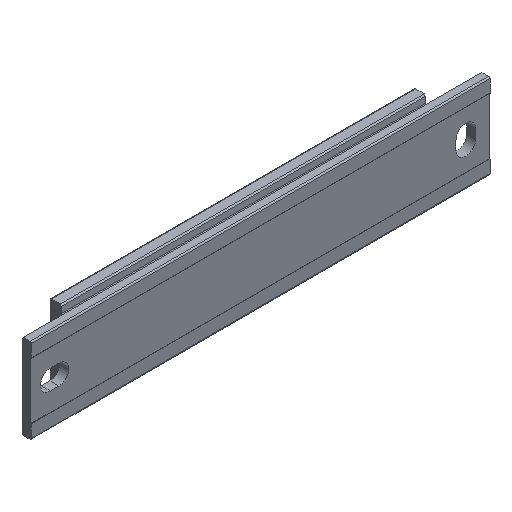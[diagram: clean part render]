
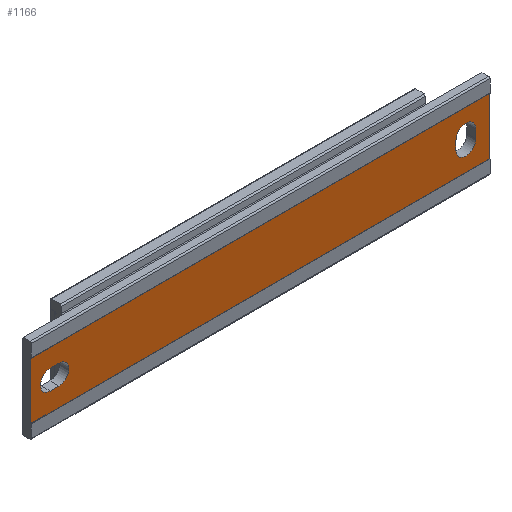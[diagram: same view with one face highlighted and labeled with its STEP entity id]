
A CAD part, isometric view. The second image highlights one B-rep face of the part: STEP entity #1166.
In plain terms, the highlighted planar face has unit normal (0, -1, 0).
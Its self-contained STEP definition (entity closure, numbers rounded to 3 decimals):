
#25 = CIRCLE ( 'NONE', #1387, 2.1 ) ;
#63 = DIRECTION ( 'NONE',  ( 0., 0., 1. ) ) ;
#131 = ORIENTED_EDGE ( 'NONE', *, *, #443, .T. ) ;
#133 = VERTEX_POINT ( 'NONE', #603 ) ;
#143 = ORIENTED_EDGE ( 'NONE', *, *, #2090, .T. ) ;
#166 = CARTESIAN_POINT ( 'NONE',  ( 89.9, 0.1, -3. ) ) ;
#266 = VECTOR ( 'NONE', #2353, 1000. ) ;
#305 = DIRECTION ( 'NONE',  ( 1., 0., 0. ) ) ;
#317 = ORIENTED_EDGE ( 'NONE', *, *, #707, .T. ) ;
#336 = CARTESIAN_POINT ( 'NONE',  ( 92., 0.1, -8.1 ) ) ;
#343 = DIRECTION ( 'NONE',  ( 0., 0., -1. ) ) ;
#358 = DIRECTION ( 'NONE',  ( 0., 1., 0. ) ) ;
#383 = VECTOR ( 'NONE', #2014, 1000. ) ;
#405 = EDGE_CURVE ( 'NONE', #877, #1257, #1589, .T. ) ;
#441 = VERTEX_POINT ( 'NONE', #650 ) ;
#443 = EDGE_CURVE ( 'NONE', #1113, #133, #1202, .T. ) ;
#468 = AXIS2_PLACEMENT_3D ( 'NONE', #1247, #1434, #1279 ) ;
#511 = VECTOR ( 'NONE', #2053, 1000. ) ;
#561 = DIRECTION ( 'NONE',  ( 0., 1., 0. ) ) ;
#593 = CARTESIAN_POINT ( 'NONE',  ( 92., 0.1, -9.9 ) ) ;
#598 = DIRECTION ( 'NONE',  ( 0., 1., 0. ) ) ;
#603 = CARTESIAN_POINT ( 'NONE',  ( 94.1, 0.1, -8.1 ) ) ;
#639 = EDGE_CURVE ( 'NONE', #1823, #1113, #1659, .T. ) ;
#640 = ORIENTED_EDGE ( 'NONE', *, *, #1727, .T. ) ;
#650 = CARTESIAN_POINT ( 'NONE',  ( 0., 0.1, -15. ) ) ;
#656 = PLANE ( 'NONE',  #2100 ) ;
#707 = EDGE_CURVE ( 'NONE', #716, #2363, #1905, .T. ) ;
#716 = VERTEX_POINT ( 'NONE', #1364 ) ;
#733 = DIRECTION ( 'NONE',  ( 0., 0., 1. ) ) ;
#742 = EDGE_LOOP ( 'NONE', ( #2215, #317, #1636, #640 ) ) ;
#757 = AXIS2_PLACEMENT_3D ( 'NONE', #336, #561, #1116 ) ;
#763 = VECTOR ( 'NONE', #343, 1000. ) ;
#841 = CARTESIAN_POINT ( 'NONE',  ( 94.1, 0.1, -9.9 ) ) ;
#877 = VERTEX_POINT ( 'NONE', #2282 ) ;
#890 = CARTESIAN_POINT ( 'NONE',  ( 94.1, 0.1, -3. ) ) ;
#903 = VECTOR ( 'NONE', #733, 1000. ) ;
#912 = EDGE_CURVE ( 'NONE', #1257, #441, #1304, .T. ) ;
#923 = CARTESIAN_POINT ( 'NONE',  ( 5.9, 0.1, -9. ) ) ;
#927 = CARTESIAN_POINT ( 'NONE',  ( 97., 0.1, -3. ) ) ;
#1019 = LINE ( 'NONE', #890, #1464 ) ;
#1071 = AXIS2_PLACEMENT_3D ( 'NONE', #593, #358, #2274 ) ;
#1098 = DIRECTION ( 'NONE',  ( 0., 0., -1. ) ) ;
#1113 = VERTEX_POINT ( 'NONE', #1482 ) ;
#1116 = DIRECTION ( 'NONE',  ( 0., 0., 1. ) ) ;
#1135 = ORIENTED_EDGE ( 'NONE', *, *, #912, .T. ) ;
#1142 = FACE_BOUND ( 'NONE', #1837, .T. ) ;
#1166 = ADVANCED_FACE ( 'NONE', ( #1142, #1349, #1882 ), #656, .F. ) ;
#1202 = CIRCLE ( 'NONE', #468, 2.1 ) ;
#1208 = ORIENTED_EDGE ( 'NONE', *, *, #405, .T. ) ;
#1216 = DIRECTION ( 'NONE',  ( 0., 1., 0. ) ) ;
#1247 = CARTESIAN_POINT ( 'NONE',  ( 92., 0.1, -8.1 ) ) ;
#1254 = CARTESIAN_POINT ( 'NONE',  ( 97., 0.1, -6.9 ) ) ;
#1257 = VERTEX_POINT ( 'NONE', #1864 ) ;
#1274 = EDGE_CURVE ( 'NONE', #877, #1903, #1345, .T. ) ;
#1279 = DIRECTION ( 'NONE',  ( 0., 0., 1. ) ) ;
#1304 = LINE ( 'NONE', #2038, #763 ) ;
#1325 = AXIS2_PLACEMENT_3D ( 'NONE', #923, #1216, #1759 ) ;
#1345 = LINE ( 'NONE', #927, #511 ) ;
#1349 = FACE_BOUND ( 'NONE', #742, .T. ) ;
#1364 = CARTESIAN_POINT ( 'NONE',  ( 5.9, 0.1, -6.9 ) ) ;
#1380 = EDGE_CURVE ( 'NONE', #1903, #441, #1567, .T. ) ;
#1384 = VERTEX_POINT ( 'NONE', #841 ) ;
#1387 = AXIS2_PLACEMENT_3D ( 'NONE', #2304, #598, #63 ) ;
#1434 = DIRECTION ( 'NONE',  ( 0., 1., 0. ) ) ;
#1464 = VECTOR ( 'NONE', #1098, 1000. ) ;
#1482 = CARTESIAN_POINT ( 'NONE',  ( 92., 0.1, -6. ) ) ;
#1489 = EDGE_CURVE ( 'NONE', #1544, #716, #2174, .T. ) ;
#1502 = CARTESIAN_POINT ( 'NONE',  ( 89.9, 0.1, -9.9 ) ) ;
#1526 = ORIENTED_EDGE ( 'NONE', *, *, #639, .T. ) ;
#1544 = VERTEX_POINT ( 'NONE', #2085 ) ;
#1567 = LINE ( 'NONE', #2119, #2412 ) ;
#1589 = LINE ( 'NONE', #1599, #266 ) ;
#1599 = CARTESIAN_POINT ( 'NONE',  ( 97., 0.1, -3. ) ) ;
#1600 = ORIENTED_EDGE ( 'NONE', *, *, #2006, .T. ) ;
#1636 = ORIENTED_EDGE ( 'NONE', *, *, #1915, .T. ) ;
#1646 = VERTEX_POINT ( 'NONE', #1502 ) ;
#1659 = CIRCLE ( 'NONE', #757, 2.1 ) ;
#1671 = LINE ( 'NONE', #2190, #383 ) ;
#1722 = ORIENTED_EDGE ( 'NONE', *, *, #2281, .T. ) ;
#1727 = EDGE_CURVE ( 'NONE', #2147, #1544, #25, .T. ) ;
#1754 = ORIENTED_EDGE ( 'NONE', *, *, #1274, .F. ) ;
#1759 = DIRECTION ( 'NONE',  ( 0., 0., 1. ) ) ;
#1785 = DIRECTION ( 'NONE',  ( 0., 1., 0. ) ) ;
#1823 = VERTEX_POINT ( 'NONE', #2116 ) ;
#1826 = CARTESIAN_POINT ( 'NONE',  ( 97., 0.1, -3. ) ) ;
#1837 = EDGE_LOOP ( 'NONE', ( #1600, #1526, #131, #143, #1722 ) ) ;
#1862 = VECTOR ( 'NONE', #1988, 1000. ) ;
#1864 = CARTESIAN_POINT ( 'NONE',  ( 0., 0.1, -3. ) ) ;
#1871 = LINE ( 'NONE', #166, #903 ) ;
#1882 = FACE_OUTER_BOUND ( 'NONE', #2161, .T. ) ;
#1903 = VERTEX_POINT ( 'NONE', #2022 ) ;
#1905 = CIRCLE ( 'NONE', #1325, 2.1 ) ;
#1915 = EDGE_CURVE ( 'NONE', #2363, #2147, #1671, .T. ) ;
#1921 = CARTESIAN_POINT ( 'NONE',  ( 5.9, 0.1, -11.1 ) ) ;
#1988 = DIRECTION ( 'NONE',  ( 1., 0., 0. ) ) ;
#2006 = EDGE_CURVE ( 'NONE', #1646, #1823, #1871, .T. ) ;
#2014 = DIRECTION ( 'NONE',  ( -1., 0., 0. ) ) ;
#2022 = CARTESIAN_POINT ( 'NONE',  ( 97., 0.1, -15. ) ) ;
#2038 = CARTESIAN_POINT ( 'NONE',  ( 0., 0.1, -3. ) ) ;
#2053 = DIRECTION ( 'NONE',  ( 0., 0., -1. ) ) ;
#2085 = CARTESIAN_POINT ( 'NONE',  ( 4.1, 0.1, -6.9 ) ) ;
#2090 = EDGE_CURVE ( 'NONE', #133, #1384, #1019, .T. ) ;
#2100 = AXIS2_PLACEMENT_3D ( 'NONE', #1826, #1785, #305 ) ;
#2116 = CARTESIAN_POINT ( 'NONE',  ( 89.9, 0.1, -8.1 ) ) ;
#2119 = CARTESIAN_POINT ( 'NONE',  ( 97., 0.1, -15. ) ) ;
#2122 = CIRCLE ( 'NONE', #1071, 2.1 ) ;
#2147 = VERTEX_POINT ( 'NONE', #2361 ) ;
#2161 = EDGE_LOOP ( 'NONE', ( #1135, #2267, #1754, #1208 ) ) ;
#2174 = LINE ( 'NONE', #1254, #1862 ) ;
#2190 = CARTESIAN_POINT ( 'NONE',  ( 97., 0.1, -11.1 ) ) ;
#2215 = ORIENTED_EDGE ( 'NONE', *, *, #1489, .T. ) ;
#2267 = ORIENTED_EDGE ( 'NONE', *, *, #1380, .F. ) ;
#2274 = DIRECTION ( 'NONE',  ( 0., 0., 1. ) ) ;
#2281 = EDGE_CURVE ( 'NONE', #1384, #1646, #2122, .T. ) ;
#2282 = CARTESIAN_POINT ( 'NONE',  ( 97., 0.1, -3. ) ) ;
#2304 = CARTESIAN_POINT ( 'NONE',  ( 4.1, 0.1, -9. ) ) ;
#2333 = DIRECTION ( 'NONE',  ( -1., 0., 0. ) ) ;
#2353 = DIRECTION ( 'NONE',  ( -1., 0., 0. ) ) ;
#2361 = CARTESIAN_POINT ( 'NONE',  ( 4.1, 0.1, -11.1 ) ) ;
#2363 = VERTEX_POINT ( 'NONE', #1921 ) ;
#2412 = VECTOR ( 'NONE', #2333, 1000. ) ;
